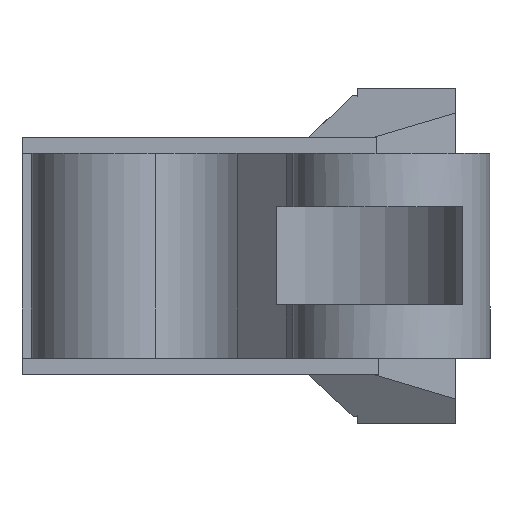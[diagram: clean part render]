
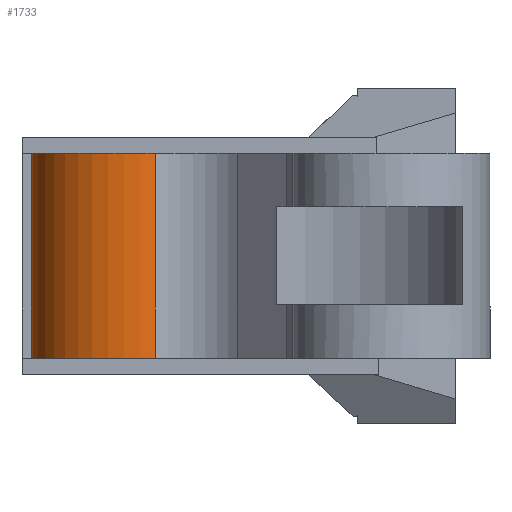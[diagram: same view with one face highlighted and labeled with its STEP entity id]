
A CAD part, left-side view. The second image highlights one B-rep face of the part: STEP entity #1733.
In plain terms, the highlighted cylindrical face has radius 6 mm (diameter 12 mm), a partial arc.
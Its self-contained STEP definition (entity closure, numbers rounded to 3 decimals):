
#18 = EDGE_CURVE ( 'NONE', #759, #990, #1851, .T. ) ;
#37 = AXIS2_PLACEMENT_3D ( 'NONE', #1750, #325, #174 ) ;
#154 = EDGE_CURVE ( 'NONE', #358, #759, #333, .T. ) ;
#174 = DIRECTION ( 'NONE',  ( -0.032, 0.999, 0. ) ) ;
#220 = DIRECTION ( 'NONE',  ( -1., 0., 0. ) ) ;
#225 = DIRECTION ( 'NONE',  ( 0., 0., 1. ) ) ;
#300 = CIRCLE ( 'NONE', #1468, 6. ) ;
#325 = DIRECTION ( 'NONE',  ( 0., 0., 1. ) ) ;
#333 = LINE ( 'NONE', #975, #1561 ) ;
#358 = VERTEX_POINT ( 'NONE', #918 ) ;
#378 = CARTESIAN_POINT ( 'NONE',  ( 0.288, -11.965, -14.489 ) ) ;
#493 = CARTESIAN_POINT ( 'NONE',  ( -7.28, -6.369, -0.989 ) ) ;
#617 = ORIENTED_EDGE ( 'NONE', *, *, #154, .F. ) ;
#669 = CARTESIAN_POINT ( 'NONE',  ( 0.288, -11.965, -0.989 ) ) ;
#710 = DIRECTION ( 'NONE',  ( -1., 0., 0. ) ) ;
#759 = VERTEX_POINT ( 'NONE', #493 ) ;
#812 = EDGE_LOOP ( 'NONE', ( #974, #617, #986, #1820 ) ) ;
#873 = DIRECTION ( 'NONE',  ( 0., 0., 1. ) ) ;
#918 = CARTESIAN_POINT ( 'NONE',  ( -7.28, -6.369, -13.489 ) ) ;
#974 = ORIENTED_EDGE ( 'NONE', *, *, #18, .F. ) ;
#975 = CARTESIAN_POINT ( 'NONE',  ( -7.28, -6.369, -14.489 ) ) ;
#986 = ORIENTED_EDGE ( 'NONE', *, *, #1837, .T. ) ;
#990 = VERTEX_POINT ( 'NONE', #669 ) ;
#1015 = CARTESIAN_POINT ( 'NONE',  ( -1.283, -6.174, -0.989 ) ) ;
#1069 = AXIS2_PLACEMENT_3D ( 'NONE', #1015, #1617, #220 ) ;
#1102 = VECTOR ( 'NONE', #873, 1000. ) ;
#1110 = DIRECTION ( 'NONE',  ( 0., 0., 1. ) ) ;
#1146 = EDGE_CURVE ( 'NONE', #1513, #990, #1210, .T. ) ;
#1210 = LINE ( 'NONE', #378, #1102 ) ;
#1276 = CYLINDRICAL_SURFACE ( 'NONE', #37, 6. ) ;
#1324 = FACE_OUTER_BOUND ( 'NONE', #812, .T. ) ;
#1379 = CARTESIAN_POINT ( 'NONE',  ( 0.288, -11.965, -13.489 ) ) ;
#1468 = AXIS2_PLACEMENT_3D ( 'NONE', #1489, #225, #710 ) ;
#1489 = CARTESIAN_POINT ( 'NONE',  ( -1.283, -6.174, -13.489 ) ) ;
#1513 = VERTEX_POINT ( 'NONE', #1379 ) ;
#1561 = VECTOR ( 'NONE', #1110, 1000. ) ;
#1617 = DIRECTION ( 'NONE',  ( 0., 0., 1. ) ) ;
#1733 = ADVANCED_FACE ( 'NONE', ( #1324 ), #1276, .T. ) ;
#1750 = CARTESIAN_POINT ( 'NONE',  ( -1.283, -6.174, -14.489 ) ) ;
#1820 = ORIENTED_EDGE ( 'NONE', *, *, #1146, .T. ) ;
#1837 = EDGE_CURVE ( 'NONE', #358, #1513, #300, .T. ) ;
#1851 = CIRCLE ( 'NONE', #1069, 6. ) ;
